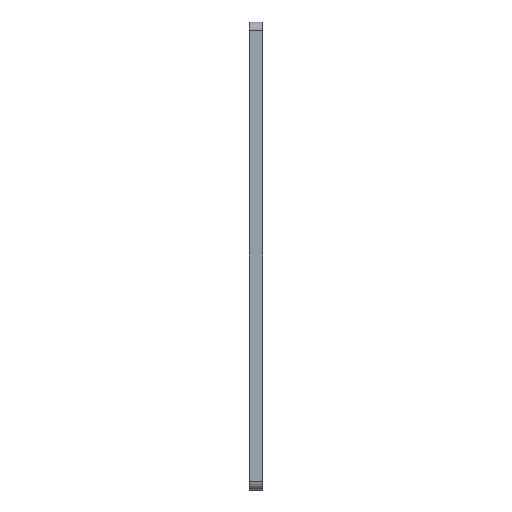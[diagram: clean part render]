
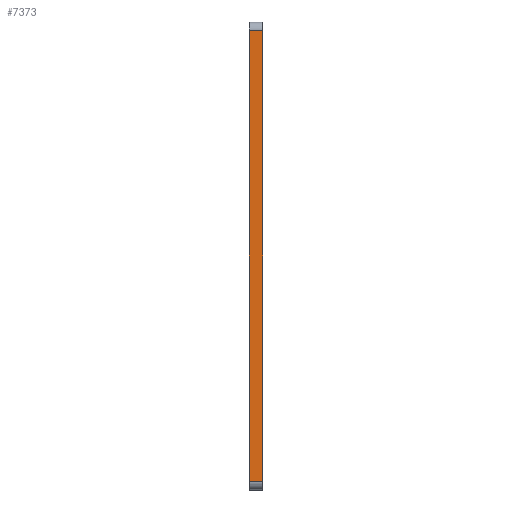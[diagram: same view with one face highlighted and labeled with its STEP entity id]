
A CAD part, left-side view. The second image highlights one B-rep face of the part: STEP entity #7373.
In plain terms, the highlighted planar face has unit normal (-1, 0, 0).
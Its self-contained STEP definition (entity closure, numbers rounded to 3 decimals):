
#402 = EDGE_CURVE ( 'NONE', #11251, #11647, #11755, .T. ) ;
#432 = CARTESIAN_POINT ( 'NONE',  ( -145., 15., -385. ) ) ;
#1361 = DIRECTION ( 'NONE',  ( 0., 0., -1. ) ) ;
#1410 = ORIENTED_EDGE ( 'NONE', *, *, #4663, .T. ) ;
#1419 = DIRECTION ( 'NONE',  ( 1., 0., 0. ) ) ;
#1457 = CARTESIAN_POINT ( 'NONE',  ( -145., 0., -375. ) ) ;
#1885 = DIRECTION ( 'NONE',  ( 0., 0., 1. ) ) ;
#1899 = VECTOR ( 'NONE', #4172, 1000. ) ;
#2047 = ORIENTED_EDGE ( 'NONE', *, *, #6421, .F. ) ;
#2187 = VECTOR ( 'NONE', #4786, 1000. ) ;
#2747 = VERTEX_POINT ( 'NONE', #8696 ) ;
#3308 = CARTESIAN_POINT ( 'NONE',  ( -145., 15., 135. ) ) ;
#3324 = CARTESIAN_POINT ( 'NONE',  ( -145., 0., -385. ) ) ;
#4172 = DIRECTION ( 'NONE',  ( 0., -1., 0. ) ) ;
#4663 = EDGE_CURVE ( 'NONE', #2747, #11251, #5595, .T. ) ;
#4786 = DIRECTION ( 'NONE',  ( 0., 1., 0. ) ) ;
#5595 = LINE ( 'NONE', #11731, #1899 ) ;
#5819 = VERTEX_POINT ( 'NONE', #3308 ) ;
#5831 = FACE_OUTER_BOUND ( 'NONE', #11376, .T. ) ;
#6310 = ORIENTED_EDGE ( 'NONE', *, *, #402, .T. ) ;
#6421 = EDGE_CURVE ( 'NONE', #2747, #5819, #11106, .T. ) ;
#7086 = DIRECTION ( 'NONE',  ( 0., 0., 1. ) ) ;
#7303 = EDGE_CURVE ( 'NONE', #11647, #5819, #10374, .T. ) ;
#7373 = ADVANCED_FACE ( 'NONE', ( #5831 ), #11484, .F. ) ;
#8696 = CARTESIAN_POINT ( 'NONE',  ( -145., 15., -375. ) ) ;
#8794 = ORIENTED_EDGE ( 'NONE', *, *, #7303, .T. ) ;
#9053 = AXIS2_PLACEMENT_3D ( 'NONE', #432, #1419, #1361 ) ;
#10175 = CARTESIAN_POINT ( 'NONE',  ( -145., 15., -385. ) ) ;
#10194 = CARTESIAN_POINT ( 'NONE',  ( -145., 15., 135. ) ) ;
#10374 = LINE ( 'NONE', #10194, #2187 ) ;
#10754 = VECTOR ( 'NONE', #7086, 1000. ) ;
#10764 = CARTESIAN_POINT ( 'NONE',  ( -145., 0., 135. ) ) ;
#11106 = LINE ( 'NONE', #10175, #11999 ) ;
#11251 = VERTEX_POINT ( 'NONE', #1457 ) ;
#11376 = EDGE_LOOP ( 'NONE', ( #2047, #1410, #6310, #8794 ) ) ;
#11484 = PLANE ( 'NONE',  #9053 ) ;
#11647 = VERTEX_POINT ( 'NONE', #10764 ) ;
#11731 = CARTESIAN_POINT ( 'NONE',  ( -145., 15., -375. ) ) ;
#11755 = LINE ( 'NONE', #3324, #10754 ) ;
#11999 = VECTOR ( 'NONE', #1885, 1000. ) ;
